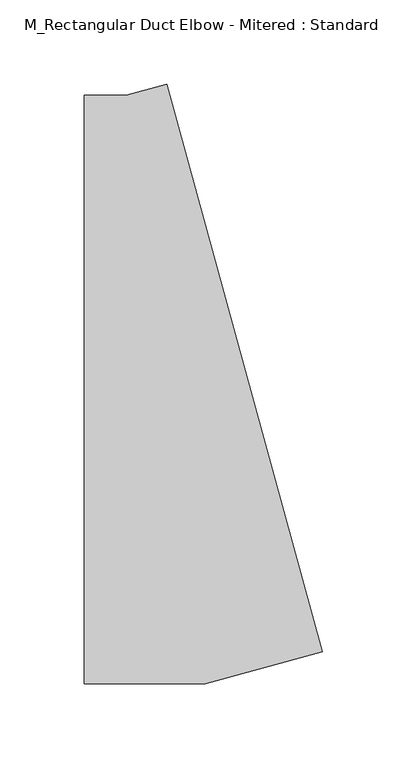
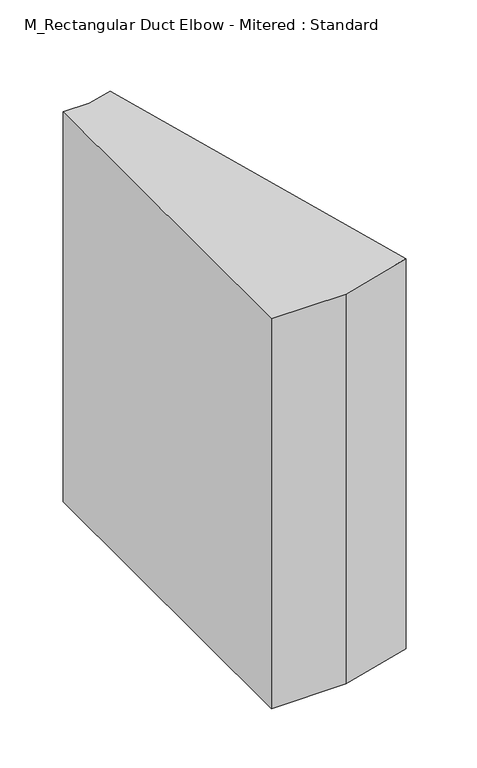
"""IFC4 building model written with IfcOpenShell, lengths in millimetres: duct fitting geometry, M_Rectangular Duct Elbow - Mitered : Standard."""

from ifc_helpers import new_model, si_unit, frame, origin, place, context, project, spatial, polyline, outline, extrude, source, transform, mapped, element, save


def m_rectangular_duct_elbow_mitered_standard_fe73ea92(model_context):
    return source(origin(), model_context, "Body", "SweptSolid", [
        extrude(outline(polyline([(-48.5861752, -175.0), (-48.5861752, 175.0), (-23.5861752, 175.0), (0.5217717, 181.6186779), (93.1832627, -155.8925783), (23.5861752, -175.0), (-48.5861752, -175.0)])), frame((0.0, 0.0, -200.0), z_axis=(0.0, 0.0, 1.0), x_axis=(1.0, 0.0, 0.0)), (0.0, 0.0, 1.0), 400.0),
        extrude(outline(polyline([(-48.5861752, -175.0), (-48.5861752, 175.0), (-23.5861752, 175.0), (0.5217717, 181.6186779), (93.1832627, -155.8925783), (23.5861752, -175.0), (-48.5861752, -175.0)])), frame((0.0, 0.0, -200.0), z_axis=(0.0, 0.0, 1.0), x_axis=(1.0, 0.0, 0.0)), (0.0, 0.0, 1.0), 400.0),
        extrude(outline(polyline([(-48.5861752, -175.0), (-48.5861752, 175.0), (-23.5861752, 175.0), (0.5217717, 181.6186779), (93.1832627, -155.8925783), (23.5861752, -175.0), (-48.5861752, -175.0)])), frame((0.0, 0.0, -200.0), z_axis=(0.0, 0.0, 1.0), x_axis=(1.0, 0.0, 0.0)), (0.0, 0.0, 1.0), 400.0),
    ])


if __name__ == "__main__":
    model = new_model("IFC4")
    model_context = context("Model", 3, world=origin())
    ifc_project = project(units=[si_unit("LENGTHUNIT", "METRE", prefix="MILLI")], contexts=[model_context])
    site = spatial("IfcSite", under=ifc_project)
    building = spatial("IfcBuilding", under=site)
    placement = place(None, origin())
    m_rectangular_duct_elbow_mitered_standard_shape = m_rectangular_duct_elbow_mitered_standard_fe73ea92(model_context)
    element("IfcDuctFitting", 1, ObjectType="M_Rectangular Duct Elbow - Mitered : Standard", at=placement, inside=building, context=model_context, shape_type="MappedRepresentation", body=[
        mapped(m_rectangular_duct_elbow_mitered_standard_shape, transform((0.0, 0.0, 0.0), x_axis=(1.0, 0.0, 0.0), y_axis=(0.0, 1.0, 0.0), z_axis=(0.0, 0.0, 1.0))),
    ])
    save(model, "model.ifc")
